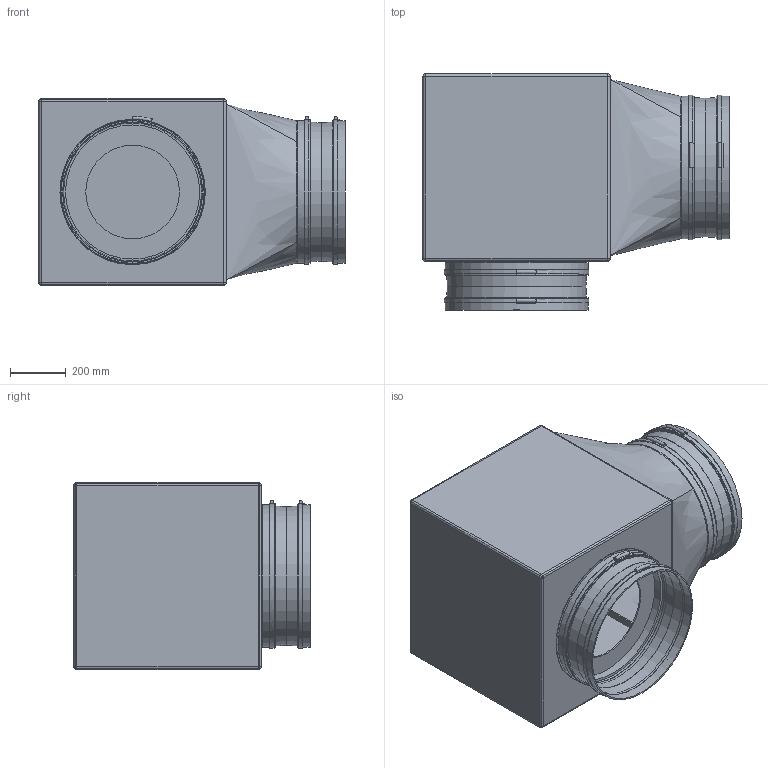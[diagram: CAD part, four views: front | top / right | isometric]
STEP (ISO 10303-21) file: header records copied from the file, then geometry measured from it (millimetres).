
FILE_DESCRIPTION(/* description */ (''),/* implementation_level */ '2;1');
FILE_NAME(/* name */ 'Z:\Output\GBD_500_4_4_T120_Radial-05777-001.stp',/* time_stamp */ '2017-05-09T00:03:27+02:00',/* author */ ('jayeshpanchal'),/* organization */ (''),/* preprocessor_version */ 'ST-DEVELOPER v16.5',/* originating_system */ 'Autodesk Inventor 2017',/* authorisation */ '');
FILE_SCHEMA (('AUTOMOTIVE_DESIGN { 1 0 10303 214 3 1 1 }'));
Length unit declared in the file: millimetre
Products named in the file (1): GB-2
Bounding box: 1095 x 845 x 670 mm (x, y, z)
Volume: 16085116 mm3; surface area: 7427240.3 mm2
Topology: 9 solids, 10 shells, 141 faces, 274 edges, 166 vertices
Faces by surface type: plane 55, cylinder 50, bspline 16, cone 8, sphere 8, torus 4
Full cylindrical faces by diameter (mm): 15 x2, 335 x1, 480 x1, 490 x1, 500 x2, 501 x8, 510 x2, 511 x8, 517 x4, 520 x1
Entity records: 4071 total; most frequent: CARTESIAN_POINT 1282, DIRECTION 596, ORIENTED_EDGE 474, AXIS2_PLACEMENT_3D 251, EDGE_CURVE 231, EDGE_LOOP 214, VERTEX_POINT 161, FACE_OUTER_BOUND 141
